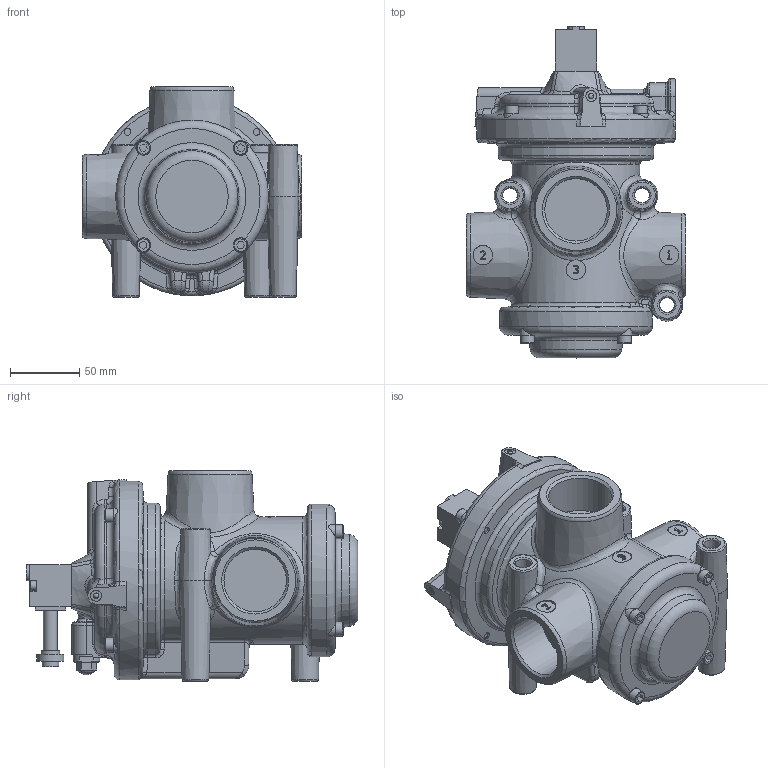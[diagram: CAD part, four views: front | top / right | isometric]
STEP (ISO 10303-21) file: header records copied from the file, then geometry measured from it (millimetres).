
FILE_DESCRIPTION(/* description */ ('EV.OTT. x VUOTO 3/2 NC-NA SOL-MOLLA ALIM.EST. CON M3R'),/* implementation_level */ '2;1');
FILE_NAME(/* name */ 'C:\PNX_VAULTFOLDER\Area Tecnica\Disegni\VARIE-3D\Componenti\1900 (vuoto)\N776-V_32_0_1_M3R.stp',/* time_stamp */ '2018-06-18T15:51:40+02:00',/* author */ ('maniean1'),/* organization */ ('Pneumax S.p.A.'),/* preprocessor_version */ 'ST-DEVELOPER v16.5',/* originating_system */ 'Autodesk Inventor 2017',/* authorisation */ '');
FILE_SCHEMA (('AUTOMOTIVE_DESIGN { 1 0 10303 214 3 1 1 }'));
Length unit declared in the file: millimetre
Products named in the file (1): N776/V.32.0.1.M3R
Bounding box: 158 x 239 x 151.5 mm (x, y, z)
Volume: 1928156.9 mm3; surface area: 169477.1 mm2
Topology: 1 solids, 9 shells, 675 faces, 1637 edges, 1012 vertices
Faces by surface type: plane 230, bspline 194, cylinder 106, torus 66, cone 61, sphere 18
Full cylindrical faces by diameter (mm): 4 x6, 4.917 x8, 7 x3, 7.3 x1, 8 x4, 8.68 x1, 10 x9, 12 x1, 13.3 x1, 14 x3, 18 x1, 19 x1, 19.5 x1, 45 x3, 110 x1, 143 x1
Entity records: 27506 total; most frequent: CARTESIAN_POINT 12918, ORIENTED_EDGE 2894, DIRECTION 2534, EDGE_CURVE 1447, AXIS2_PLACEMENT_3D 1022, VERTEX_POINT 949, EDGE_LOOP 844, FACE_OUTER_BOUND 675
